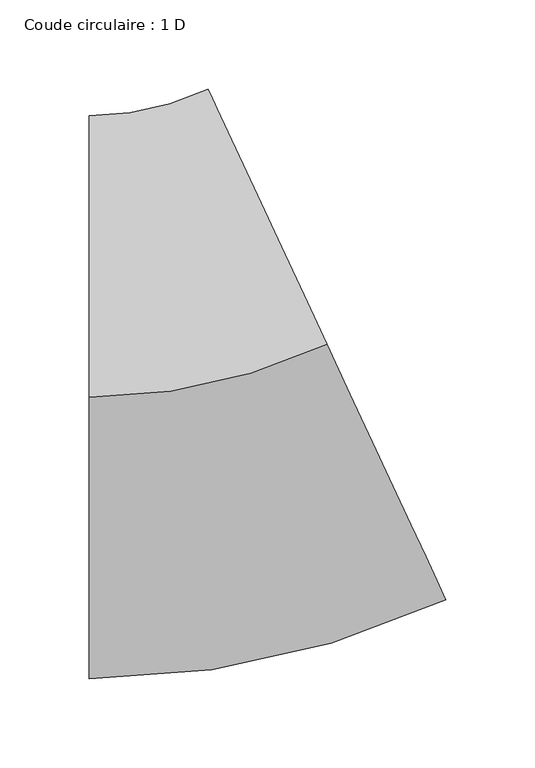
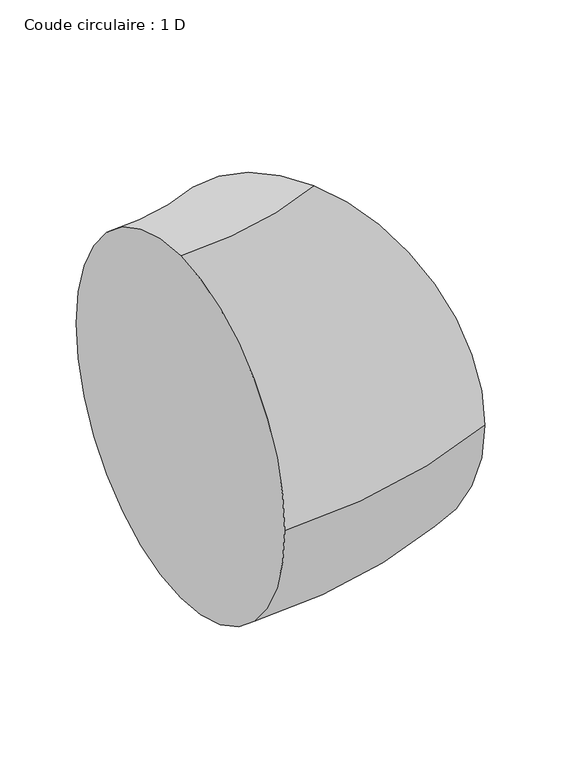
"""IFC4 building model written with IfcOpenShell, lengths in millimetres: duct fitting geometry, Coude circulaire : 1 D."""

from ifc_helpers import new_model, si_unit, point, frame, origin, place, context, project, spatial, circle_curve, ellipse_curve, trimmed, source, transform, mapped, element, save
from ifc_brep_helpers import plane_surface, revolved_surface, advanced_brep


def coude_circulaire_1_d_0297107d(model_context):
    return source(origin(), model_context, "Body", "AdvancedBrep", [
        advanced_brep(
        [(-69.8338187, 0.0, 157.5), (-69.8338187, 157.5, 0.0), (-69.8338187, 0.0, -157.5), (-69.8338187, -157.5, 0.0), (63.2909337, 29.5130471, 157.5), (129.8533099, -113.2304294, 0.0), (63.2909337, 29.5130471, -157.5), (-3.2714425, 172.2565235, 0.0)],
        [
            (0, 1, circle_curve(frame((-69.8338187, 0.0, 0.0), z_axis=(-1.0, 0.0, 0.0), x_axis=(0.0, 1.0, 0.0)), 157.5)),
            (1, 2, circle_curve(frame((-69.8338187, 0.0, 0.0), z_axis=(-1.0, 0.0, 0.0), x_axis=(0.0, 1.0, 0.0)), 157.5)),
            (2, 3, circle_curve(frame((-69.8338187, 0.0, 0.0), z_axis=(-1.0, 0.0, 0.0), x_axis=(0.0, 1.0, 0.0)), 157.5)),
            (3, 0, circle_curve(frame((-69.8338187, 0.0, 0.0), z_axis=(-1.0, 0.0, 0.0), x_axis=(0.0, 1.0, 0.0)), 157.5)),
            (4, 5, circle_curve(frame((63.2909337, 29.5130471, 0.0), z_axis=(0.9063077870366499, 0.42261826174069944, 0.0), x_axis=(-0.42261826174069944, 0.9063077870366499, 0.0)), 157.5)),
            (5, 6, circle_curve(frame((63.2909337, 29.5130471, 0.0), z_axis=(0.9063077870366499, 0.42261826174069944, 0.0), x_axis=(-0.42261826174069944, 0.9063077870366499, 0.0)), 157.5)),
            (6, 7, circle_curve(frame((63.2909337, 29.5130471, 0.0), z_axis=(0.9063077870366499, 0.42261826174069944, 0.0), x_axis=(-0.42261826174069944, 0.9063077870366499, 0.0)), 157.5)),
            (7, 4, circle_curve(frame((63.2909337, 29.5130471, 0.0), z_axis=(0.9063077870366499, 0.42261826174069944, 0.0), x_axis=(-0.42261826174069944, 0.9063077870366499, 0.0)), 157.5)),
            (7, 1, circle_curve(frame((-69.8338187, 315.0, 0.0), z_axis=(0.0, 0.0, -1.0), x_axis=(0.0, -1.0, 0.0)), 157.5)),
            (0, 4, circle_curve(frame((-69.8338187, 315.0, 157.5), z_axis=(0.0, 0.0, 1.0), x_axis=(0.0, -1.0, 0.0)), 315.0)),
            (6, 2, circle_curve(frame((-69.8338187, 315.0, -157.5), z_axis=(0.0, 0.0, -1.0), x_axis=(0.0, -1.0, 0.0)), 315.0)),
            (5, 3, circle_curve(frame((-69.8338187, 315.0, 0.0), z_axis=(0.0, 0.0, -1.0), x_axis=(0.0, -1.0, 0.0)), 472.5)),
        ],
        [
            plane_surface(frame((-69.8338187, 0.0, 0.0), z_axis=(-1.0, 0.0, 0.0), x_axis=(0.0, 0.0, 1.0))),
            plane_surface(frame((63.2909337, 29.5130471, 0.0), z_axis=(0.90630778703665, 0.42261826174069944, 0.0), x_axis=(0.0, 0.0, 1.0))),
            revolved_surface(trimmed(ellipse_curve(frame((-69.8338187, 0.0, 0.0), z_axis=(-1.0, 0.0, 0.0), x_axis=(0.0, 1.0, 0.0)), 157.5, 157.5), [point((-69.8338187, 0.0, 157.5))], [point((-69.8338187, 157.5, 0.0))], True, "CARTESIAN"), (-69.8338187, 315.0, 0.0), (0.0, 0.0, 1.0)),
            revolved_surface(trimmed(ellipse_curve(frame((-69.8338187, 0.0, 0.0), z_axis=(-1.0, 0.0, 0.0), x_axis=(0.0, 1.0, 0.0)), 157.5, 157.5), [point((-69.8338187, 157.5, 0.0))], [point((-69.8338187, 0.0, -157.5))], True, "CARTESIAN"), (-69.8338187, 315.0, 0.0), (0.0, 0.0, 1.0)),
            revolved_surface(trimmed(ellipse_curve(frame((-69.8338187, 0.0, 0.0), z_axis=(-1.0, 0.0, 0.0), x_axis=(0.0, 1.0, 0.0)), 157.5, 157.5), [point((-69.8338187, 0.0, -157.5))], [point((-69.8338187, -157.5, 0.0))], True, "CARTESIAN"), (-69.8338187, 315.0, 0.0), (0.0, 0.0, 1.0)),
            revolved_surface(trimmed(ellipse_curve(frame((-69.8338187, 0.0, 0.0), z_axis=(-1.0, 0.0, 0.0), x_axis=(0.0, 1.0, 0.0)), 157.5, 157.5), [point((-69.8338187, -157.5, 0.0))], [point((-69.8338187, 0.0, 157.5))], True, "CARTESIAN"), (-69.8338187, 315.0, 0.0), (0.0, 0.0, 1.0)),
        ],
        [
            (0, [[1, 2, 3, 4]]),
            (1, [[5, 6, 7, 8]]),
            (2, [[9, -1, 10, -8]]),
            (3, [[11, -2, -9, -7]]),
            (4, [[12, -3, -11, -6]]),
            (5, [[-10, -4, -12, -5]]),
        ],
    ),
    ])


if __name__ == "__main__":
    model = new_model("IFC4")
    model_context = context("Model", 3, world=origin())
    ifc_project = project(units=[si_unit("LENGTHUNIT", "METRE", prefix="MILLI")], contexts=[model_context])
    site = spatial("IfcSite", under=ifc_project)
    building = spatial("IfcBuilding", under=site)
    placement = place(None, origin())
    coude_circulaire_1_d_shape = coude_circulaire_1_d_0297107d(model_context)
    element("IfcDuctFitting", 1, ObjectType="Coude circulaire : 1 D", at=placement, inside=building, context=model_context, shape_type="MappedRepresentation", body=[
        mapped(coude_circulaire_1_d_shape, transform((0.0, 0.0, 0.0), x_axis=(1.0, 0.0, 0.0), y_axis=(0.0, 1.0, 0.0), z_axis=(0.0, 0.0, 1.0))),
    ])
    save(model, "model.ifc")
